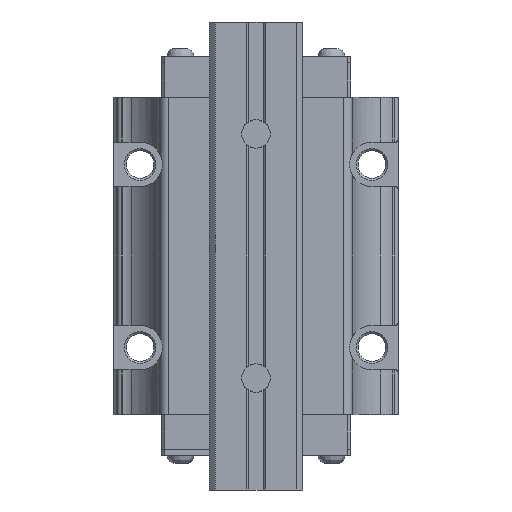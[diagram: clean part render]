
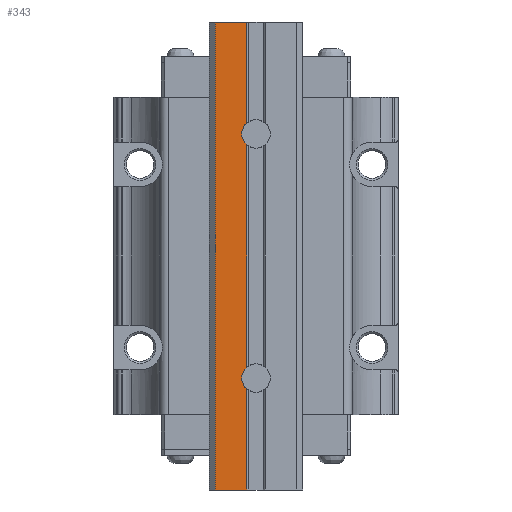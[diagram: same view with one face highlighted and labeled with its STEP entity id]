
A CAD part, front view. The second image highlights one B-rep face of the part: STEP entity #343.
In plain terms, the highlighted planar face has unit normal (0, -1, 0).
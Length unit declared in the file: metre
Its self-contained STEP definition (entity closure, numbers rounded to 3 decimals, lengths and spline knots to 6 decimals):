
#343 = ADVANCED_FACE( '', ( #932 ), #933, .F. );
#932 = FACE_OUTER_BOUND( '', #1840, .T. );
#933 = PLANE( '', #1841 );
#1840 = EDGE_LOOP( '', ( #2992, #2993, #2994, #2995, #2996, #2997, #2998, #2999 ) );
#1841 = AXIS2_PLACEMENT_3D( '', #3000, #3001, #3002 );
#2992 = ORIENTED_EDGE( '', *, *, #5315, .F. );
#2993 = ORIENTED_EDGE( '', *, *, #5316, .T. );
#2994 = ORIENTED_EDGE( '', *, *, #5317, .F. );
#2995 = ORIENTED_EDGE( '', *, *, #5318, .T. );
#2996 = ORIENTED_EDGE( '', *, *, #5319, .T. );
#2997 = ORIENTED_EDGE( '', *, *, #5320, .F. );
#2998 = ORIENTED_EDGE( '', *, *, #5321, .F. );
#2999 = ORIENTED_EDGE( '', *, *, #5322, .T. );
#3000 = CARTESIAN_POINT( '', ( -0.0023, 0., -0.1055 ) );
#3001 = DIRECTION( '', ( 0., 1., 0. ) );
#3002 = DIRECTION( '', ( 1., 0., 0. ) );
#5315 = EDGE_CURVE( '', #6338, #6339, #6340, .T. );
#5316 = EDGE_CURVE( '', #6338, #6341, #6342, .T. );
#5317 = EDGE_CURVE( '', #6343, #6341, #6344, .T. );
#5318 = EDGE_CURVE( '', #6343, #6345, #6346, .T. );
#5319 = EDGE_CURVE( '', #6345, #6347, #6348, .T. );
#5320 = EDGE_CURVE( '', #6349, #6347, #6350, .T. );
#5321 = EDGE_CURVE( '', #6351, #6349, #6352, .T. );
#5322 = EDGE_CURVE( '', #6351, #6339, #6353, .T. );
#6338 = VERTEX_POINT( '', #7844 );
#6339 = VERTEX_POINT( '', #7845 );
#6340 = CIRCLE( '', #7846, 0.0035 );
#6341 = VERTEX_POINT( '', #7847 );
#6342 = LINE( '', #7848, #7849 );
#6343 = VERTEX_POINT( '', #7850 );
#6344 = CIRCLE( '', #7851, 0.0035 );
#6345 = VERTEX_POINT( '', #7852 );
#6346 = LINE( '', #7853, #7854 );
#6347 = VERTEX_POINT( '', #7855 );
#6348 = LINE( '', #7856, #7857 );
#6349 = VERTEX_POINT( '', #7858 );
#6350 = LINE( '', #7859, #7860 );
#6351 = VERTEX_POINT( '', #7861 );
#6352 = LINE( '', #7862, #7863 );
#6353 = LINE( '', #7864, #7865 );
#7844 = CARTESIAN_POINT( '', ( -0.0023, 0., -0.084862 ) );
#7845 = CARTESIAN_POINT( '', ( -0.0023, 0., -0.090138 ) );
#7846 = AXIS2_PLACEMENT_3D( '', #9692, #9693, #9694 );
#7847 = CARTESIAN_POINT( '', ( -0.0023, 0., -0.030138 ) );
#7848 = CARTESIAN_POINT( '', ( -0.0023, 0., -0.1055 ) );
#7849 = VECTOR( '', #9695, 1. );
#7850 = CARTESIAN_POINT( '', ( -0.0023, 0., -0.024862 ) );
#7851 = AXIS2_PLACEMENT_3D( '', #9696, #9697, #9698 );
#7852 = CARTESIAN_POINT( '', ( -0.0023, 0., 0. ) );
#7853 = CARTESIAN_POINT( '', ( -0.0023, 0., -0.1055 ) );
#7854 = VECTOR( '', #9699, 1. );
#7855 = CARTESIAN_POINT( '', ( -0.01, 0., 0. ) );
#7856 = CARTESIAN_POINT( '', ( -0.0023, 0., 0. ) );
#7857 = VECTOR( '', #9700, 1. );
#7858 = CARTESIAN_POINT( '', ( -0.01, 0., -0.115 ) );
#7859 = CARTESIAN_POINT( '', ( -0.01, 0., -0.1055 ) );
#7860 = VECTOR( '', #9701, 1. );
#7861 = CARTESIAN_POINT( '', ( -0.0023, 0., -0.115 ) );
#7862 = CARTESIAN_POINT( '', ( -0.0023, 0., -0.115 ) );
#7863 = VECTOR( '', #9702, 1. );
#7864 = CARTESIAN_POINT( '', ( -0.0023, 0., -0.1055 ) );
#7865 = VECTOR( '', #9703, 1. );
#9692 = CARTESIAN_POINT( '', ( 0., 0., -0.0875 ) );
#9693 = DIRECTION( '', ( 0., -1., 0. ) );
#9694 = DIRECTION( '', ( 1., 0., 0. ) );
#9695 = DIRECTION( '', ( 0., 0., 1. ) );
#9696 = CARTESIAN_POINT( '', ( 0., 0., -0.0275 ) );
#9697 = DIRECTION( '', ( 0., -1., 0. ) );
#9698 = DIRECTION( '', ( 1., 0., 0. ) );
#9699 = DIRECTION( '', ( 0., 0., 1. ) );
#9700 = DIRECTION( '', ( -1., 0., 0. ) );
#9701 = DIRECTION( '', ( 0., 0., 1. ) );
#9702 = DIRECTION( '', ( -1., 0., 0. ) );
#9703 = DIRECTION( '', ( 0., 0., 1. ) );
